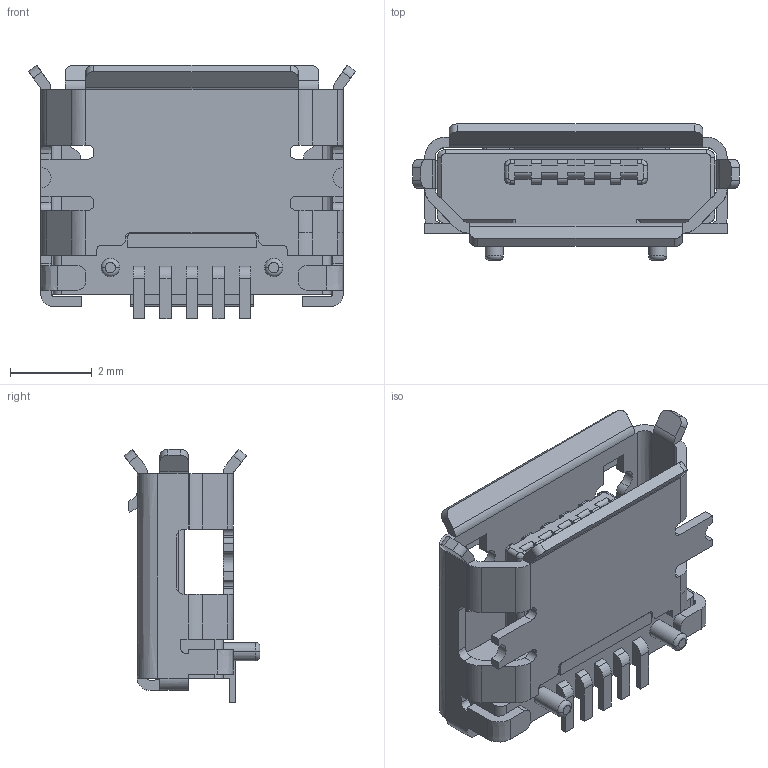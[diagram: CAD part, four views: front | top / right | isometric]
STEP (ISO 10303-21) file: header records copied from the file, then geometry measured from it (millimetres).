
FILE_DESCRIPTION(('CATIA V5 STEP Exchange'),'2;1');
FILE_NAME('F:\Work File\4新产品评估\134.富士康两款规格资料\micro usb 5p.stp','2023-07-07T14:14:23+00:00',('none'),('none'),'CATIA Version 5 Release 21 GA (IN-10)','CATIA V5 STEP AP203','none');
FILE_SCHEMA(('CONFIG_CONTROL_DESIGN'));
Length unit declared in the file: millimetre
Products named in the file (1): _MICRO_USB_5P_NO_POST-2
Bounding box: 8 x 3.33 x 6.2 mm (x, y, z)
Volume: 44.4 mm3; surface area: 274.4 mm2
Topology: 1 solids, 1 shells, 459 faces, 1372 edges, 912 vertices
Faces by surface type: plane 296, cylinder 129, extrusion 24, bspline 4, torus 4, cone 2
Entity records: 16000 total; most frequent: CARTESIAN_POINT 4450, ORIENTED_EDGE 2744, DIRECTION 1823, EDGE_CURVE 1372, VECTOR 1073, LINE 1049, VERTEX_POINT 912, EDGE_LOOP 476
